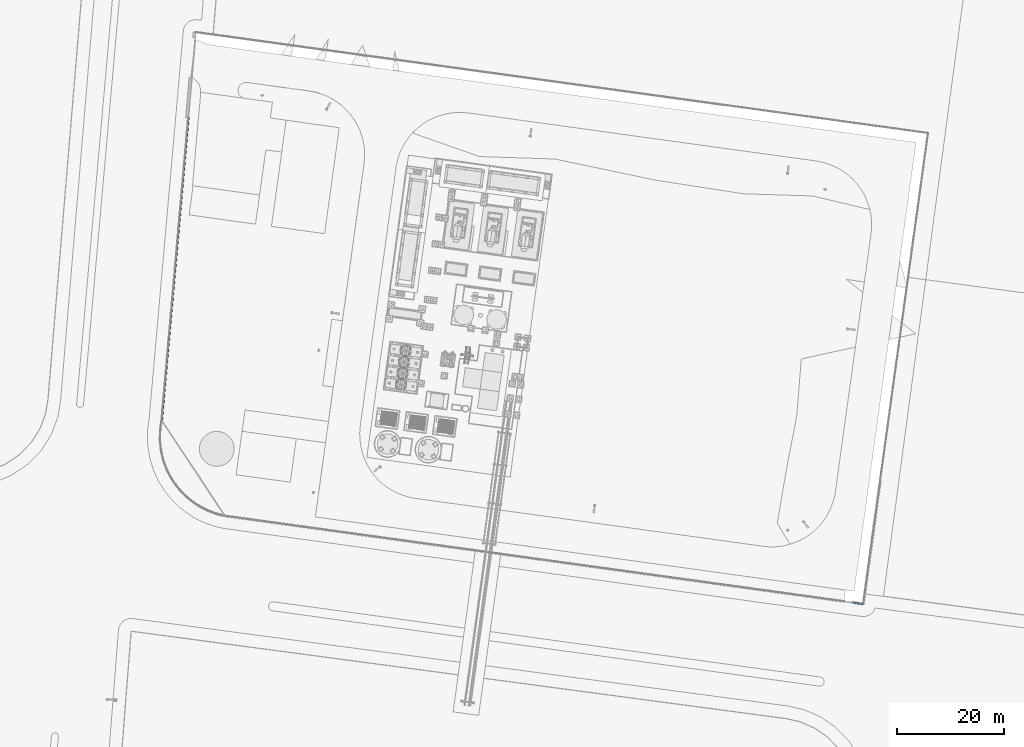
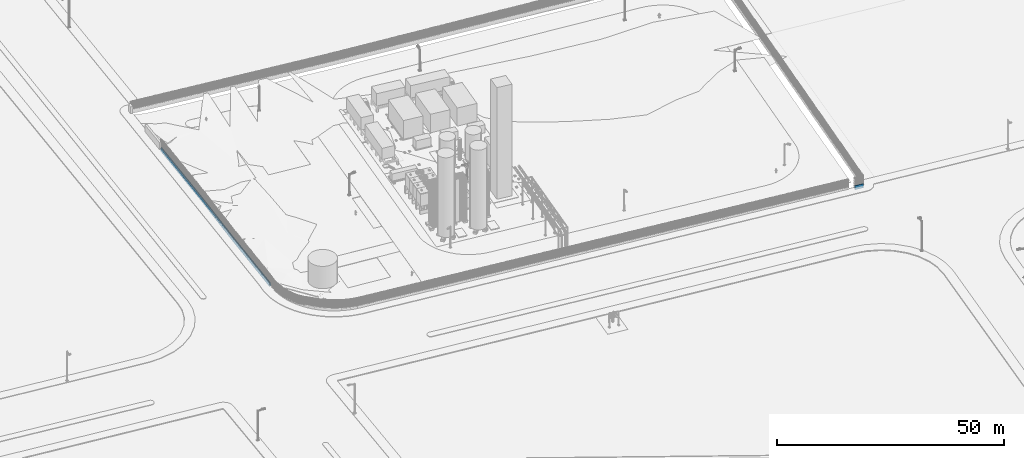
# Not in any storey, part 21 of 75: 2 walls.
"""IFC4 model written with IfcOpenShell, lengths in metres."""

from ifc_helpers import new_model, si_unit, direction, origin, origin_with_axes, place, context, subcontext, project, spatial, triangles, element, save


model = new_model("IFC4")

# Units and contexts
model_context = context("Model", 3, precision=1e-05, world=origin_with_axes(), true_north=direction((0.0, 1.0)))
body_context = subcontext(model_context, "Body", "Model", "MODEL_VIEW")
ifc_project = project(units=[si_unit("AREAUNIT", "SQUARE_METRE"), si_unit("VOLUMEUNIT", "CUBIC_METRE"), si_unit("LENGTHUNIT", "METRE")], contexts=[model_context])

# Site
site_placement = place(None, origin_with_axes())
site = spatial("IfcSite", under=ifc_project, at=site_placement, Name="Parcela industrial Jinhong")

# Walls
wall_1_placement = place(None, origin())
element("IfcWall", 1, at=wall_1_placement, inside=site, Name="Basamento de vallado · Retorno sureste", ObjectType="Hormigón prefabricado", PredefinedType="USERDEFINED", context=body_context, shape_type="Tessellation", body=[
    triangles([(125.162771, 2.862608, 1.409212), (125.10807, 2.466366, 1.409212), (125.10807, 2.466366, 1.959212), (125.121745, 2.565426, 2.409212), (125.149095, 2.763547, 2.409212), (125.162771, 2.862608, 1.959212), (123.181536, 3.136115, 1.369101), (123.126835, 2.739873, 1.369101), (123.126835, 2.739873, 1.919101), (123.140511, 2.838934, 2.369101), (123.167861, 3.037055, 2.369101), (123.181536, 3.136115, 1.919101)], [[1, 2, 7], [7, 2, 8], [11, 10, 5], [5, 10, 4], [2, 3, 9], [8, 2, 9], [9, 3, 4], [4, 10, 9], [6, 3, 2], [6, 2, 1], [4, 3, 6], [6, 5, 4], [12, 7, 8], [8, 9, 12], [12, 10, 11], [12, 9, 10], [11, 5, 12], [5, 6, 12], [1, 7, 12], [12, 6, 1]], closed=True),
])
wall_2_placement = place(None, origin())
element("IfcWall", 2, at=wall_2_placement, inside=site, Name="Basamento de vallado · Oeste", ObjectType="Hormigón prefabricado", PredefinedType="USERDEFINED", context=body_context, shape_type="Tessellation", body=[
    triangles([(-5.584779, 36.915686, -0.129498), (-5.983232, 36.950835, -0.129498), (-5.983232, 36.950835, 0.420502), (-5.883619, 36.942048, 0.870502), (-5.684392, 36.924473, 0.870502), (-5.584779, 36.915686, 0.420502), (-5.409031, 38.907949, -0.129681), (-5.807483, 38.943098, -0.129681), (-5.807483, 38.943098, 0.420319), (-5.70787, 38.934311, 0.870319), (-5.508644, 38.916736, 0.870319), (-5.409031, 38.907949, 0.420319)], [[8, 1, 2], [7, 1, 8], [3, 8, 2], [9, 8, 3], [6, 3, 2], [2, 1, 6], [6, 5, 4], [4, 3, 6], [10, 3, 4], [9, 3, 10], [12, 1, 7], [12, 6, 1], [7, 8, 11], [11, 8, 9], [9, 10, 11], [11, 12, 7], [4, 5, 11], [11, 10, 4], [5, 6, 11], [6, 12, 11]], closed=True),
    triangles([(-5.409031, 38.907949, -0.129681), (-5.807483, 38.943098, -0.129681), (-5.807483, 38.943098, 0.420319), (-5.70787, 38.934311, 0.870319), (-5.508644, 38.916736, 0.870319), (-5.409031, 38.907949, 0.420319), (-5.233282, 40.900212, -0.129644), (-5.631735, 40.935362, -0.129644), (-5.631735, 40.935362, 0.420356), (-5.532121, 40.926574, 0.870356), (-5.332895, 40.908999, 0.870356), (-5.233282, 40.900212, 0.420356)], [[7, 1, 8], [8, 1, 2], [10, 4, 11], [11, 4, 5], [7, 8, 12], [12, 9, 10], [10, 11, 12], [8, 9, 12], [12, 1, 7], [12, 6, 1], [5, 6, 12], [12, 11, 5], [2, 1, 3], [1, 6, 3], [5, 4, 3], [3, 6, 5], [3, 8, 2], [3, 9, 8], [3, 4, 10], [10, 9, 3]], closed=True),
    triangles([(-5.233282, 40.900212, -0.129644), (-5.631735, 40.935362, -0.129644), (-5.631735, 40.935362, 0.420356), (-5.532121, 40.926574, 0.870356), (-5.332895, 40.908999, 0.870356), (-5.233282, 40.900212, 0.420356), (-5.057533, 42.892475, -0.129607), (-5.455986, 42.927625, -0.129607), (-5.455986, 42.927625, 0.420393), (-5.356373, 42.918837, 0.870393), (-5.157147, 42.901262, 0.870393), (-5.057533, 42.892475, 0.420393)], [[7, 1, 8], [8, 1, 2], [10, 4, 11], [11, 4, 5], [7, 8, 12], [12, 9, 10], [10, 11, 12], [8, 9, 12], [12, 1, 7], [12, 6, 1], [5, 6, 12], [12, 11, 5], [2, 1, 3], [1, 6, 3], [5, 4, 3], [3, 6, 5], [3, 8, 2], [3, 9, 8], [3, 4, 10], [10, 9, 3]], closed=True),
    triangles([(-5.057533, 42.892475, -0.129607), (-5.455986, 42.927625, -0.129607), (-5.455986, 42.927625, 0.420393), (-5.356373, 42.918837, 0.870393), (-5.157147, 42.901262, 0.870393), (-5.057533, 42.892475, 0.420393), (-4.881785, 44.884738, -0.129722), (-5.280238, 44.919888, -0.129722), (-5.280238, 44.919888, 0.420278), (-5.180624, 44.9111, 0.870278), (-4.981398, 44.893526, 0.870278), (-4.881785, 44.884738, 0.420278)], [[8, 1, 2], [7, 1, 8], [3, 8, 2], [9, 8, 3], [6, 3, 2], [2, 1, 6], [6, 5, 4], [4, 3, 6], [10, 3, 4], [9, 3, 10], [12, 1, 7], [12, 6, 1], [7, 8, 11], [11, 8, 9], [9, 10, 11], [11, 12, 7], [4, 5, 11], [11, 10, 4], [5, 6, 11], [6, 12, 11]], closed=True),
    triangles([(-4.881785, 44.884738, -0.129722), (-5.280238, 44.919888, -0.129722), (-5.280238, 44.919888, 0.420278), (-5.180624, 44.9111, 0.870278), (-4.981398, 44.893526, 0.870278), (-4.881785, 44.884738, 0.420278), (-4.706036, 46.877001, -0.129593), (-5.104489, 46.912151, -0.129593), (-5.104489, 46.912151, 0.420407), (-5.004876, 46.903364, 0.870407), (-4.805649, 46.885789, 0.870407), (-4.706036, 46.877001, 0.420407)], [[7, 1, 8], [8, 1, 2], [10, 4, 11], [11, 4, 5], [2, 1, 3], [1, 6, 3], [5, 4, 3], [3, 6, 5], [12, 1, 7], [12, 6, 1], [5, 6, 12], [12, 11, 5], [7, 8, 9], [9, 12, 7], [10, 11, 9], [11, 12, 9], [9, 4, 10], [9, 3, 4], [9, 8, 2], [2, 3, 9]], closed=True),
    triangles([(-4.706036, 46.877001, -0.129593), (-5.104489, 46.912151, -0.129593), (-5.104489, 46.912151, 0.420407), (-5.004876, 46.903364, 0.870407), (-4.805649, 46.885789, 0.870407), (-4.706036, 46.877001, 0.420407), (-4.530288, 48.869264, -0.129464), (-4.92874, 48.904414, -0.129464), (-4.92874, 48.904414, 0.420536), (-4.829127, 48.895627, 0.870536), (-4.629901, 48.878052, 0.870536), (-4.530288, 48.869264, 0.420536)], [[7, 1, 8], [8, 1, 2], [10, 4, 11], [11, 4, 5], [7, 8, 12], [12, 9, 10], [10, 11, 12], [8, 9, 12], [12, 1, 7], [12, 6, 1], [5, 6, 12], [12, 11, 5], [2, 1, 3], [1, 6, 3], [5, 4, 3], [3, 6, 5], [3, 8, 2], [3, 9, 8], [3, 4, 10], [10, 9, 3]], closed=True),
    triangles([(-4.530288, 48.869264, -0.129464), (-4.92874, 48.904414, -0.129464), (-4.92874, 48.904414, 0.420536), (-4.829127, 48.895627, 0.870536), (-4.629901, 48.878052, 0.870536), (-4.530288, 48.869264, 0.420536), (-4.354539, 50.861528, -0.129335), (-4.752992, 50.896677, -0.129335), (-4.752992, 50.896677, 0.420665), (-4.653379, 50.88789, 0.870665), (-4.454152, 50.870315, 0.870665), (-4.354539, 50.861528, 0.420665)], [[7, 1, 8], [8, 1, 2], [10, 4, 11], [11, 4, 5], [2, 1, 3], [1, 6, 3], [5, 4, 3], [3, 6, 5], [12, 1, 7], [12, 6, 1], [5, 6, 12], [12, 11, 5], [7, 8, 9], [9, 12, 7], [10, 11, 9], [11, 12, 9], [9, 4, 10], [9, 3, 4], [9, 8, 2], [2, 3, 9]], closed=True),
    triangles([(-4.354539, 50.861528, -0.129335), (-4.752992, 50.896677, -0.129335), (-4.752992, 50.896677, 0.420665), (-4.653379, 50.88789, 0.870665), (-4.454152, 50.870315, 0.870665), (-4.354539, 50.861528, 0.420665), (-4.178791, 52.853791, -0.129206), (-4.577243, 52.88894, -0.129206), (-4.577243, 52.88894, 0.420794), (-4.47763, 52.880153, 0.870794), (-4.278404, 52.862578, 0.870794), (-4.178791, 52.853791, 0.420794)], [[7, 1, 8], [8, 1, 2], [10, 4, 11], [11, 4, 5], [7, 8, 12], [12, 9, 10], [10, 11, 12], [8, 9, 12], [12, 1, 7], [12, 6, 1], [5, 6, 12], [12, 11, 5], [2, 1, 3], [1, 6, 3], [5, 4, 3], [3, 6, 5], [3, 8, 2], [3, 9, 8], [3, 4, 10], [10, 9, 3]], closed=True),
    triangles([(-4.178791, 52.853791, -0.129206), (-4.577243, 52.88894, -0.129206), (-4.577243, 52.88894, 0.420794), (-4.47763, 52.880153, 0.870794), (-4.278404, 52.862578, 0.870794), (-4.178791, 52.853791, 0.420794), (-4.003042, 54.846054, -0.129077), (-4.401495, 54.881204, -0.129077), (-4.401495, 54.881204, 0.420923), (-4.301882, 54.872416, 0.870923), (-4.102655, 54.854841, 0.870923), (-4.003042, 54.846054, 0.420923)], [[7, 1, 8], [8, 1, 2], [4, 5, 11], [10, 4, 11], [9, 3, 4], [9, 4, 10], [9, 8, 2], [2, 3, 9], [6, 3, 2], [2, 1, 6], [6, 5, 4], [4, 3, 6], [7, 8, 12], [12, 9, 10], [10, 11, 12], [8, 9, 12], [12, 1, 7], [12, 6, 1], [12, 11, 5], [5, 6, 12]], closed=True),
    triangles([(-4.003042, 54.846054, -0.129077), (-4.401495, 54.881204, -0.129077), (-4.401495, 54.881204, 0.420923), (-4.301882, 54.872416, 0.870923), (-4.102655, 54.854841, 0.870923), (-4.003042, 54.846054, 0.420923), (-3.827294, 56.838317, -0.105172), (-4.225746, 56.873467, -0.105172), (-4.225746, 56.873467, 0.444828), (-4.126133, 56.864679, 0.894828), (-3.926907, 56.847104, 0.894828), (-3.827294, 56.838317, 0.444828)], [[7, 1, 8], [8, 1, 2], [10, 4, 11], [11, 4, 5], [7, 8, 12], [12, 9, 10], [10, 11, 12], [8, 9, 12], [12, 1, 7], [12, 6, 1], [5, 6, 12], [12, 11, 5], [2, 1, 3], [1, 6, 3], [5, 4, 3], [3, 6, 5], [3, 8, 2], [3, 9, 8], [3, 4, 10], [10, 9, 3]], closed=True),
    triangles([(-3.827294, 56.838317, -0.105172), (-4.225746, 56.873467, -0.105172), (-4.225746, 56.873467, 0.444828), (-4.126133, 56.864679, 0.894828), (-3.926907, 56.847104, 0.894828), (-3.827294, 56.838317, 0.444828), (-3.651545, 58.83058, -0.057797), (-4.049998, 58.86573, -0.057797), (-4.049998, 58.86573, 0.492203), (-3.950384, 58.856942, 0.942203), (-3.751158, 58.839368, 0.942203), (-3.651545, 58.83058, 0.492203)], [[7, 1, 8], [8, 1, 2], [10, 4, 11], [11, 4, 5], [2, 1, 3], [1, 6, 3], [5, 4, 3], [3, 6, 5], [12, 1, 7], [12, 6, 1], [5, 6, 12], [12, 11, 5], [7, 8, 9], [9, 12, 7], [10, 11, 9], [11, 12, 9], [9, 4, 10], [9, 3, 4], [9, 8, 2], [2, 3, 9]], closed=True),
    triangles([(-3.651545, 58.83058, -0.057797), (-4.049998, 58.86573, -0.057797), (-4.049998, 58.86573, 0.492203), (-3.950384, 58.856942, 0.942203), (-3.751158, 58.839368, 0.942203), (-3.651545, 58.83058, 0.492203), (-3.475796, 60.822843, -0.010422), (-3.874249, 60.857993, -0.010422), (-3.874249, 60.857993, 0.539578), (-3.774636, 60.849206, 0.989578), (-3.57541, 60.831631, 0.989578), (-3.475796, 60.822843, 0.539578)], [[7, 1, 8], [8, 1, 2], [4, 5, 11], [10, 4, 11], [3, 8, 2], [3, 9, 8], [10, 9, 3], [3, 4, 10], [7, 8, 12], [12, 9, 10], [8, 9, 12], [10, 11, 12], [6, 3, 2], [2, 1, 6], [6, 5, 4], [4, 3, 6], [6, 1, 7], [7, 12, 6], [6, 11, 5], [6, 12, 11]], closed=True),
    triangles([(-3.475796, 60.822843, -0.010422), (-3.874249, 60.857993, -0.010422), (-3.874249, 60.857993, 0.539578), (-3.774636, 60.849206, 0.989578), (-3.57541, 60.831631, 0.989578), (-3.475796, 60.822843, 0.539578), (-3.300048, 62.815106, 0.036953), (-3.698501, 62.850256, 0.036953), (-3.698501, 62.850256, 0.586953), (-3.598887, 62.841469, 1.036953), (-3.399661, 62.823894, 1.036953), (-3.300048, 62.815106, 0.586953)], [[7, 1, 8], [8, 1, 2], [10, 4, 11], [11, 4, 5], [7, 8, 12], [12, 9, 10], [10, 11, 12], [8, 9, 12], [12, 1, 7], [12, 6, 1], [5, 6, 12], [12, 11, 5], [2, 1, 3], [1, 6, 3], [5, 4, 3], [3, 6, 5], [3, 8, 2], [3, 9, 8], [3, 4, 10], [10, 9, 3]], closed=True),
    triangles([(-3.300048, 62.815106, 0.036953), (-3.698501, 62.850256, 0.036953), (-3.698501, 62.850256, 0.586953), (-3.598887, 62.841469, 1.036953), (-3.399661, 62.823894, 1.036953), (-3.300048, 62.815106, 0.586953), (-3.124299, 64.80737, 0.084328), (-3.522752, 64.842519, 0.084328), (-3.522752, 64.842519, 0.634328), (-3.423139, 64.833732, 1.084328), (-3.223913, 64.816157, 1.084328), (-3.124299, 64.80737, 0.634328)], [[1, 8, 7], [2, 8, 1], [11, 4, 5], [10, 4, 11], [3, 9, 8], [3, 8, 2], [10, 9, 3], [3, 4, 10], [8, 9, 12], [7, 8, 12], [12, 9, 10], [10, 11, 12], [2, 1, 6], [6, 3, 2], [5, 4, 6], [4, 3, 6], [6, 11, 5], [6, 12, 11], [6, 1, 7], [7, 12, 6]], closed=True),
    triangles([(-3.124299, 64.80737, 0.084328), (-3.522752, 64.842519, 0.084328), (-3.522752, 64.842519, 0.634328), (-3.423139, 64.833732, 1.084328), (-3.223913, 64.816157, 1.084328), (-3.124299, 64.80737, 0.634328), (-2.948551, 66.799633, 0.131703), (-3.347003, 66.834782, 0.131703), (-3.347003, 66.834782, 0.681703), (-3.24739, 66.825995, 1.131703), (-3.048164, 66.80842, 1.131703), (-2.948551, 66.799633, 0.681703)], [[7, 1, 8], [8, 1, 2], [4, 5, 11], [10, 4, 11], [9, 3, 4], [9, 4, 10], [9, 8, 2], [2, 3, 9], [6, 3, 2], [2, 1, 6], [6, 5, 4], [4, 3, 6], [7, 8, 12], [12, 9, 10], [10, 11, 12], [8, 9, 12], [12, 1, 7], [12, 6, 1], [12, 11, 5], [5, 6, 12]], closed=True),
    triangles([(-2.948551, 66.799633, 0.131703), (-3.347003, 66.834782, 0.131703), (-3.347003, 66.834782, 0.681703), (-3.24739, 66.825995, 1.131703), (-3.048164, 66.80842, 1.131703), (-2.948551, 66.799633, 0.681703), (-2.772802, 68.791896, 0.179078), (-3.171255, 68.827046, 0.179078), (-3.171255, 68.827046, 0.729078), (-3.071642, 68.818258, 1.179078), (-2.872415, 68.800683, 1.179078), (-2.772802, 68.791896, 0.729078)], [[7, 1, 8], [8, 1, 2], [4, 5, 11], [10, 4, 11], [3, 8, 2], [3, 9, 8], [10, 9, 3], [3, 4, 10], [6, 3, 2], [2, 1, 6], [6, 5, 4], [4, 3, 6], [7, 8, 12], [12, 9, 10], [8, 9, 12], [10, 11, 12], [12, 1, 7], [12, 6, 1], [12, 11, 5], [5, 6, 12]], closed=True),
    triangles([(-2.772802, 68.791896, 0.179078), (-3.171255, 68.827046, 0.179078), (-3.171255, 68.827046, 0.729078), (-3.071642, 68.818258, 1.179078), (-2.872415, 68.800683, 1.179078), (-2.772802, 68.791896, 0.729078), (-2.597054, 70.784159, 0.226453), (-2.995506, 70.819309, 0.226453), (-2.995506, 70.819309, 0.776453), (-2.895893, 70.810521, 1.226453), (-2.696667, 70.792946, 1.226453), (-2.597054, 70.784159, 0.776453)], [[7, 1, 8], [8, 1, 2], [5, 11, 10], [10, 4, 5], [9, 12, 7], [7, 8, 9], [10, 11, 9], [11, 12, 9], [9, 3, 4], [9, 4, 10], [9, 8, 2], [2, 3, 9], [2, 1, 6], [6, 3, 2], [4, 3, 6], [6, 5, 4], [6, 1, 7], [7, 12, 6], [6, 12, 11], [11, 5, 6]], closed=True),
    triangles([(-2.597054, 70.784159, 0.226453), (-2.995506, 70.819309, 0.226453), (-2.995506, 70.819309, 0.776453), (-2.895893, 70.810521, 1.226453), (-2.696667, 70.792946, 1.226453), (-2.597054, 70.784159, 0.776453), (-2.421305, 72.776422, 0.242522), (-2.819758, 72.811572, 0.242522), (-2.819758, 72.811572, 0.792522), (-2.720145, 72.802784, 1.242522), (-2.520918, 72.78521, 1.242522), (-2.421305, 72.776422, 0.792522)], [[7, 1, 8], [8, 1, 2], [4, 5, 11], [10, 4, 11], [3, 8, 2], [3, 9, 8], [10, 9, 3], [3, 4, 10], [7, 8, 12], [12, 9, 10], [8, 9, 12], [10, 11, 12], [6, 3, 2], [2, 1, 6], [6, 5, 4], [4, 3, 6], [6, 1, 7], [7, 12, 6], [6, 11, 5], [6, 12, 11]], closed=True),
    triangles([(-2.421305, 72.776422, 0.242522), (-2.819758, 72.811572, 0.242522), (-2.819758, 72.811572, 0.792522), (-2.720145, 72.802784, 1.242522), (-2.520918, 72.78521, 1.242522), (-2.421305, 72.776422, 0.792522), (-2.245557, 74.768685, 0.242799), (-2.644009, 74.803835, 0.242799), (-2.644009, 74.803835, 0.792799), (-2.544396, 74.795048, 1.242799), (-2.34517, 74.777473, 1.242799), (-2.245557, 74.768685, 0.792799)], [[7, 1, 8], [8, 1, 2], [10, 4, 11], [11, 4, 5], [2, 1, 3], [1, 6, 3], [5, 4, 3], [3, 6, 5], [12, 1, 7], [12, 6, 1], [5, 6, 12], [12, 11, 5], [7, 8, 9], [9, 12, 7], [10, 11, 9], [11, 12, 9], [9, 4, 10], [9, 3, 4], [9, 8, 2], [2, 3, 9]], closed=True),
    triangles([(-2.245557, 74.768685, 0.242799), (-2.644009, 74.803835, 0.242799), (-2.644009, 74.803835, 0.792799), (-2.544396, 74.795048, 1.242799), (-2.34517, 74.777473, 1.242799), (-2.245557, 74.768685, 0.792799), (-2.069808, 76.760949, 0.243196), (-2.468261, 76.796098, 0.243196), (-2.468261, 76.796098, 0.793196), (-2.368648, 76.787311, 1.243196), (-2.169421, 76.769736, 1.243196), (-2.069808, 76.760949, 0.793196)], [[7, 1, 8], [8, 1, 2], [12, 9, 10], [7, 8, 12], [10, 11, 12], [8, 9, 12], [5, 11, 10], [10, 4, 5], [3, 8, 2], [3, 9, 8], [10, 9, 3], [3, 4, 10], [2, 1, 6], [6, 3, 2], [6, 5, 4], [4, 3, 6], [6, 1, 7], [7, 12, 6], [6, 12, 11], [11, 5, 6]], closed=True),
    triangles([(-2.069808, 76.760949, 0.243196), (-2.468261, 76.796098, 0.243196), (-2.468261, 76.796098, 0.793196), (-2.368648, 76.787311, 1.243196), (-2.169421, 76.769736, 1.243196), (-2.069808, 76.760949, 0.793196), (-1.894059, 78.753212, 0.243055), (-2.292512, 78.788361, 0.243055), (-2.292512, 78.788361, 0.793055), (-2.192899, 78.779574, 1.243055), (-1.993673, 78.761999, 1.243055), (-1.894059, 78.753212, 0.793055)], [[8, 1, 2], [7, 1, 8], [3, 8, 2], [9, 8, 3], [6, 3, 2], [2, 1, 6], [6, 5, 4], [4, 3, 6], [6, 1, 7], [7, 12, 6], [10, 3, 4], [9, 3, 10], [7, 8, 11], [11, 8, 9], [11, 12, 7], [9, 10, 11], [11, 6, 12], [5, 6, 11], [4, 5, 11], [11, 10, 4]], closed=True),
    triangles([(-1.894059, 78.753212, 0.243055), (-2.292512, 78.788361, 0.243055), (-2.292512, 78.788361, 0.793055), (-2.192899, 78.779574, 1.243055), (-1.993673, 78.761999, 1.243055), (-1.894059, 78.753212, 0.793055), (-1.718311, 80.745475, 0.244224), (-2.116764, 80.780625, 0.244224), (-2.116764, 80.780625, 0.794224), (-2.01715, 80.771837, 1.244224), (-1.817924, 80.754262, 1.244224), (-1.718311, 80.745475, 0.794224)], [[7, 1, 8], [8, 1, 2], [12, 9, 10], [7, 8, 12], [10, 11, 12], [8, 9, 12], [5, 11, 10], [10, 4, 5], [3, 8, 2], [3, 9, 8], [10, 9, 3], [3, 4, 10], [2, 1, 6], [6, 3, 2], [6, 5, 4], [4, 3, 6], [6, 1, 7], [7, 12, 6], [6, 12, 11], [11, 5, 6]], closed=True),
    triangles([(-1.718311, 80.745475, 0.244224), (-2.116764, 80.780625, 0.244224), (-2.116764, 80.780625, 0.794224), (-2.01715, 80.771837, 1.244224), (-1.817924, 80.754262, 1.244224), (-1.718311, 80.745475, 0.794224), (-1.542562, 82.737738, 0.23811), (-1.941015, 82.772888, 0.23811), (-1.941015, 82.772888, 0.78811), (-1.841402, 82.7641, 1.23811), (-1.642176, 82.746525, 1.23811), (-1.542562, 82.737738, 0.78811)], [[8, 1, 2], [7, 1, 8], [3, 8, 2], [9, 8, 3], [6, 3, 2], [2, 1, 6], [6, 5, 4], [4, 3, 6], [10, 3, 4], [9, 3, 10], [12, 1, 7], [12, 6, 1], [7, 8, 11], [11, 8, 9], [9, 10, 11], [11, 12, 7], [4, 5, 11], [11, 10, 4], [5, 6, 11], [6, 12, 11]], closed=True),
    triangles([(-1.542562, 82.737738, 0.23811), (-1.941015, 82.772888, 0.23811), (-1.941015, 82.772888, 0.78811), (-1.841402, 82.7641, 1.23811), (-1.642176, 82.746525, 1.23811), (-1.542562, 82.737738, 0.78811), (-1.366814, 84.730001, 0.231997), (-1.765266, 84.765151, 0.231997), (-1.765266, 84.765151, 0.781997), (-1.665653, 84.756363, 1.231997), (-1.466427, 84.738789, 1.231997), (-1.366814, 84.730001, 0.781997)], [[8, 1, 2], [7, 1, 8], [3, 8, 2], [9, 8, 3], [6, 3, 2], [2, 1, 6], [6, 5, 4], [4, 3, 6], [6, 1, 7], [7, 12, 6], [10, 3, 4], [9, 3, 10], [7, 8, 11], [11, 8, 9], [11, 12, 7], [9, 10, 11], [11, 6, 12], [5, 6, 11], [4, 5, 11], [11, 10, 4]], closed=True),
    triangles([(-1.366814, 84.730001, 0.231997), (-1.765266, 84.765151, 0.231997), (-1.765266, 84.765151, 0.781997), (-1.665653, 84.756363, 1.231997), (-1.466427, 84.738789, 1.231997), (-1.366814, 84.730001, 0.781997), (-1.191065, 86.722264, 0.225884), (-1.589518, 86.757414, 0.225884), (-1.589518, 86.757414, 0.775884), (-1.489905, 86.748627, 1.225884), (-1.290678, 86.731052, 1.225884), (-1.191065, 86.722264, 0.775884)], [[8, 1, 2], [7, 1, 8], [3, 8, 2], [9, 8, 3], [6, 3, 2], [2, 1, 6], [6, 5, 4], [4, 3, 6], [10, 3, 4], [9, 3, 10], [4, 5, 10], [5, 11, 10], [7, 8, 12], [12, 8, 9], [9, 10, 12], [12, 10, 11], [12, 1, 7], [12, 6, 1], [5, 6, 12], [12, 11, 5]], closed=True),
    triangles([(-1.191065, 86.722264, 0.225884), (-1.589518, 86.757414, 0.225884), (-1.589518, 86.757414, 0.775884), (-1.489905, 86.748627, 1.225884), (-1.290678, 86.731052, 1.225884), (-1.191065, 86.722264, 0.775884), (-1.015317, 88.714527, 0.219771), (-1.413769, 88.749677, 0.219771), (-1.413769, 88.749677, 0.769771), (-1.314156, 88.74089, 1.219771), (-1.11493, 88.723315, 1.219771), (-1.015317, 88.714527, 0.769771)], [[8, 1, 2], [7, 1, 8], [3, 8, 2], [9, 8, 3], [6, 3, 2], [2, 1, 6], [6, 5, 4], [4, 3, 6], [10, 3, 4], [9, 3, 10], [12, 1, 7], [12, 6, 1], [7, 8, 11], [11, 8, 9], [9, 10, 11], [11, 12, 7], [4, 5, 11], [11, 10, 4], [5, 6, 11], [6, 12, 11]], closed=True),
    triangles([(-1.015317, 88.714527, 0.219771), (-1.413769, 88.749677, 0.219771), (-1.413769, 88.749677, 0.769771), (-1.314156, 88.74089, 1.219771), (-1.11493, 88.723315, 1.219771), (-1.015317, 88.714527, 0.769771), (-0.839568, 90.706791, 0.213657), (-1.238021, 90.74194, 0.213657), (-1.238021, 90.74194, 0.763657), (-1.138408, 90.733153, 1.213657), (-0.939181, 90.715578, 1.213657), (-0.839568, 90.706791, 0.763657)], [[8, 1, 2], [7, 1, 8], [3, 8, 2], [9, 8, 3], [6, 3, 2], [2, 1, 6], [6, 5, 4], [4, 3, 6], [6, 1, 7], [7, 12, 6], [10, 3, 4], [9, 3, 10], [7, 8, 11], [11, 8, 9], [11, 12, 7], [9, 10, 11], [11, 6, 12], [5, 6, 11], [4, 5, 11], [11, 10, 4]], closed=True),
    triangles([(-0.839568, 90.706791, 0.213657), (-1.238021, 90.74194, 0.213657), (-1.238021, 90.74194, 0.763657), (-1.138408, 90.733153, 1.213657), (-0.939181, 90.715578, 1.213657), (-0.839568, 90.706791, 0.763657), (-0.66382, 92.699054, 0.207544), (-1.062272, 92.734203, 0.207544), (-1.062272, 92.734203, 0.757544), (-0.962659, 92.725416, 1.207544), (-0.763433, 92.707841, 1.207544), (-0.66382, 92.699054, 0.757544)], [[8, 1, 2], [7, 1, 8], [3, 8, 2], [9, 8, 3], [6, 3, 2], [2, 1, 6], [6, 5, 4], [4, 3, 6], [10, 3, 4], [9, 3, 10], [12, 1, 7], [12, 6, 1], [7, 8, 11], [11, 8, 9], [9, 10, 11], [11, 12, 7], [4, 5, 11], [11, 10, 4], [5, 6, 11], [6, 12, 11]], closed=True),
    triangles([(-0.66382, 92.699054, 0.207544), (-1.062272, 92.734203, 0.207544), (-1.062272, 92.734203, 0.757544), (-0.962659, 92.725416, 1.207544), (-0.763433, 92.707841, 1.207544), (-0.66382, 92.699054, 0.757544), (-0.601945, 93.400456, 0.205392), (-1.000398, 93.435605, 0.205392), (-1.000398, 93.435605, 0.755392), (-0.900785, 93.426818, 1.205392), (-0.701558, 93.409243, 1.205392), (-0.601945, 93.400456, 0.755392)], [[8, 1, 2], [7, 1, 8], [3, 8, 2], [9, 8, 3], [6, 3, 2], [2, 1, 6], [6, 5, 4], [4, 3, 6], [10, 3, 4], [9, 3, 10], [12, 1, 7], [12, 6, 1], [7, 8, 11], [11, 8, 9], [9, 10, 11], [11, 12, 7], [4, 5, 11], [11, 10, 4], [5, 6, 11], [6, 12, 11]], closed=True),
])

save(model, "model.ifc")
